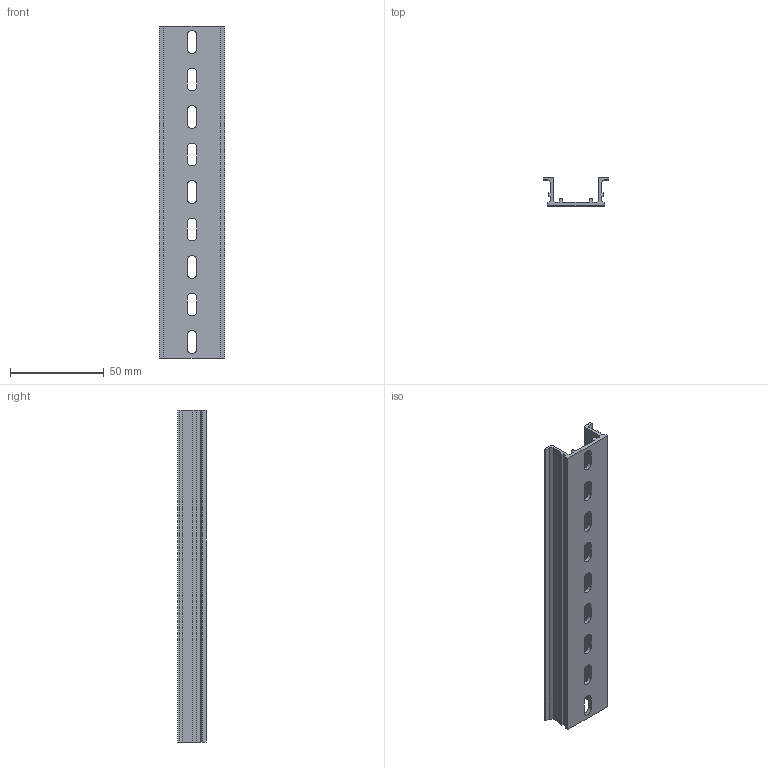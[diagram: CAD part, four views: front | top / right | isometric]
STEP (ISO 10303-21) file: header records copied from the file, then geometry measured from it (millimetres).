
FILE_DESCRIPTION(/* description */ (''),/* implementation_level */ '2;1');
FILE_NAME(/* name */ '22649-(TKB KD-9)HP 3D.stp',/* time_stamp */ '2024-12-05T13:28:07+09:00',/* author */ ('usercadg104'),/* organization */ (''),/* preprocessor_version */ 'ST-DEVELOPER v19.2',/* originating_system */ 'Autodesk Inventor 2023',/* authorisation */ '');
FILE_SCHEMA (('CONFIG_CONTROL_DESIGN'));
Length unit declared in the file: millimetre
Products named in the file (1): TKB KD-3(林)
Bounding box: 35 x 15 x 177 mm (x, y, z)
Volume: 20695.4 mm3; surface area: 24097.1 mm2
Topology: 1 solids, 1 shells, 76 faces, 222 edges, 148 vertices
Faces by surface type: plane 54, cylinder 22
Entity records: 2589 total; most frequent: CARTESIAN_POINT 447, ORIENTED_EDGE 444, DIRECTION 420, EDGE_CURVE 222, LINE 178, VECTOR 178, VERTEX_POINT 148, AXIS2_PLACEMENT_3D 121
